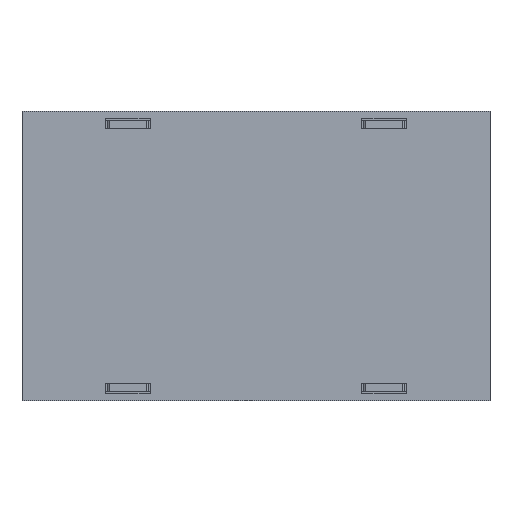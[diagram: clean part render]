
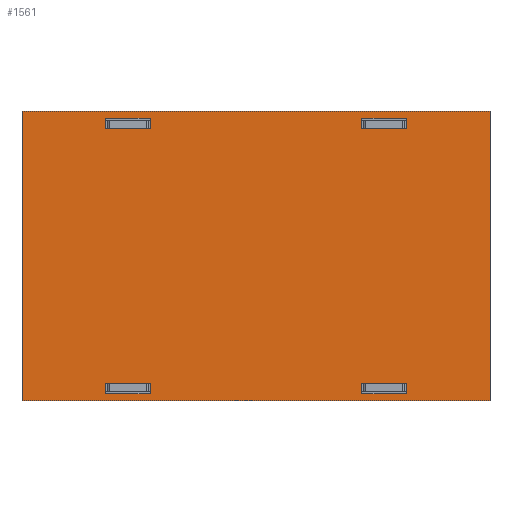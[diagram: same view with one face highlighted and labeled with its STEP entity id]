
A CAD part, front view. The second image highlights one B-rep face of the part: STEP entity #1561.
In plain terms, the highlighted planar face has unit normal (0, -1, 0).
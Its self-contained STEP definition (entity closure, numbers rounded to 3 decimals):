
#2=DIRECTION('',(-1.,0.,0.));
#3=VECTOR('',#2,5.);
#4=CARTESIAN_POINT('',(17.,0.,-15.6));
#5=LINE('',#4,#3);
#6=DIRECTION('',(0.,0.,-1.));
#7=VECTOR('',#6,1.2);
#8=CARTESIAN_POINT('',(17.,0.,-14.4));
#9=LINE('',#8,#7);
#10=DIRECTION('',(1.,0.,0.));
#11=VECTOR('',#10,5.);
#12=CARTESIAN_POINT('',(12.,0.,-14.4));
#13=LINE('',#12,#11);
#14=DIRECTION('',(0.,0.,1.));
#15=VECTOR('',#14,1.2);
#16=CARTESIAN_POINT('',(12.,0.,-15.6));
#17=LINE('',#16,#15);
#18=DIRECTION('',(-1.,0.,0.));
#19=VECTOR('',#18,5.);
#20=CARTESIAN_POINT('',(-12.,0.,-15.6));
#21=LINE('',#20,#19);
#22=DIRECTION('',(0.,0.,-1.));
#23=VECTOR('',#22,1.2);
#24=CARTESIAN_POINT('',(-12.,0.,-14.4));
#25=LINE('',#24,#23);
#26=DIRECTION('',(1.,0.,0.));
#27=VECTOR('',#26,5.);
#28=CARTESIAN_POINT('',(-17.,0.,-14.4));
#29=LINE('',#28,#27);
#30=DIRECTION('',(0.,0.,1.));
#31=VECTOR('',#30,1.2);
#32=CARTESIAN_POINT('',(-17.,0.,-15.6));
#33=LINE('',#32,#31);
#34=DIRECTION('',(0.,0.,-1.));
#35=VECTOR('',#34,1.2);
#36=CARTESIAN_POINT('',(17.,0.,15.6));
#37=LINE('',#36,#35);
#38=DIRECTION('',(1.,0.,0.));
#39=VECTOR('',#38,5.);
#40=CARTESIAN_POINT('',(12.,0.,15.6));
#41=LINE('',#40,#39);
#42=DIRECTION('',(0.,0.,1.));
#43=VECTOR('',#42,1.2);
#44=CARTESIAN_POINT('',(12.,0.,14.4));
#45=LINE('',#44,#43);
#46=DIRECTION('',(-1.,0.,0.));
#47=VECTOR('',#46,5.);
#48=CARTESIAN_POINT('',(17.,0.,14.4));
#49=LINE('',#48,#47);
#50=DIRECTION('',(0.,0.,-1.));
#51=VECTOR('',#50,1.2);
#52=CARTESIAN_POINT('',(-12.,0.,15.6));
#53=LINE('',#52,#51);
#54=DIRECTION('',(1.,0.,0.));
#55=VECTOR('',#54,5.);
#56=CARTESIAN_POINT('',(-17.,0.,15.6));
#57=LINE('',#56,#55);
#58=DIRECTION('',(0.,0.,1.));
#59=VECTOR('',#58,1.2);
#60=CARTESIAN_POINT('',(-17.,0.,14.4));
#61=LINE('',#60,#59);
#62=DIRECTION('',(-1.,0.,0.));
#63=VECTOR('',#62,5.);
#64=CARTESIAN_POINT('',(-12.,0.,14.4));
#65=LINE('',#64,#63);
#66=DIRECTION('',(1.,0.,0.));
#67=VECTOR('',#66,53.);
#68=CARTESIAN_POINT('',(-26.5,0.,16.4));
#69=LINE('',#68,#67);
#70=DIRECTION('',(0.,0.,-1.));
#71=VECTOR('',#70,32.8);
#72=CARTESIAN_POINT('',(-26.5,0.,16.4));
#73=LINE('',#72,#71);
#478=DIRECTION('',(1.,0.,0.));
#479=VECTOR('',#478,53.);
#480=CARTESIAN_POINT('',(-26.5,0.,-16.4));
#481=LINE('',#480,#479);
#1054=DIRECTION('',(0.,0.,-1.));
#1055=VECTOR('',#1054,32.8);
#1056=CARTESIAN_POINT('',(26.5,0.,16.4));
#1057=LINE('',#1056,#1055);
#1186=CARTESIAN_POINT('',(17.,0.,-15.6));
#1187=CARTESIAN_POINT('',(12.,0.,-15.6));
#1188=VERTEX_POINT('',#1186);
#1189=VERTEX_POINT('',#1187);
#1190=CARTESIAN_POINT('',(12.,0.,-14.4));
#1191=VERTEX_POINT('',#1190);
#1192=CARTESIAN_POINT('',(17.,0.,-14.4));
#1193=VERTEX_POINT('',#1192);
#1194=CARTESIAN_POINT('',(-12.,0.,-15.6));
#1195=CARTESIAN_POINT('',(-17.,0.,-15.6));
#1196=VERTEX_POINT('',#1194);
#1197=VERTEX_POINT('',#1195);
#1198=CARTESIAN_POINT('',(-17.,0.,-14.4));
#1199=VERTEX_POINT('',#1198);
#1200=CARTESIAN_POINT('',(-12.,0.,-14.4));
#1201=VERTEX_POINT('',#1200);
#1218=CARTESIAN_POINT('',(17.,0.,15.6));
#1219=CARTESIAN_POINT('',(17.,0.,14.4));
#1220=VERTEX_POINT('',#1218);
#1221=VERTEX_POINT('',#1219);
#1222=CARTESIAN_POINT('',(12.,0.,14.4));
#1223=VERTEX_POINT('',#1222);
#1224=CARTESIAN_POINT('',(12.,0.,15.6));
#1225=VERTEX_POINT('',#1224);
#1226=CARTESIAN_POINT('',(-12.,0.,15.6));
#1227=CARTESIAN_POINT('',(-12.,0.,14.4));
#1228=VERTEX_POINT('',#1226);
#1229=VERTEX_POINT('',#1227);
#1230=CARTESIAN_POINT('',(-17.,0.,14.4));
#1231=VERTEX_POINT('',#1230);
#1232=CARTESIAN_POINT('',(-17.,0.,15.6));
#1233=VERTEX_POINT('',#1232);
#1363=CARTESIAN_POINT('',(-26.5,0.,16.4));
#1365=VERTEX_POINT('',#1363);
#1382=CARTESIAN_POINT('',(26.5,0.,16.4));
#1384=VERTEX_POINT('',#1382);
#1403=CARTESIAN_POINT('',(-26.5,0.,-16.4));
#1405=VERTEX_POINT('',#1403);
#1422=CARTESIAN_POINT('',(26.5,0.,-16.4));
#1424=VERTEX_POINT('',#1422);
#1506=CARTESIAN_POINT('',(0.,0.,0.));
#1507=DIRECTION('',(0.,1.,0.));
#1508=DIRECTION('',(1.,0.,0.));
#1509=AXIS2_PLACEMENT_3D('',#1506,#1507,#1508);
#1510=PLANE('',#1509);
#1512=ORIENTED_EDGE('',*,*,#1511,.T.);
#1514=ORIENTED_EDGE('',*,*,#1513,.T.);
#1516=ORIENTED_EDGE('',*,*,#1515,.F.);
#1518=ORIENTED_EDGE('',*,*,#1517,.F.);
#1519=EDGE_LOOP('',(#1512,#1514,#1516,#1518));
#1520=FACE_OUTER_BOUND('',#1519,.F.);
#1522=ORIENTED_EDGE('',*,*,#1521,.F.);
#1524=ORIENTED_EDGE('',*,*,#1523,.F.);
#1526=ORIENTED_EDGE('',*,*,#1525,.F.);
#1528=ORIENTED_EDGE('',*,*,#1527,.F.);
#1529=EDGE_LOOP('',(#1522,#1524,#1526,#1528));
#1530=FACE_BOUND('',#1529,.F.);
#1532=ORIENTED_EDGE('',*,*,#1531,.F.);
#1534=ORIENTED_EDGE('',*,*,#1533,.F.);
#1536=ORIENTED_EDGE('',*,*,#1535,.F.);
#1538=ORIENTED_EDGE('',*,*,#1537,.F.);
#1539=EDGE_LOOP('',(#1532,#1534,#1536,#1538));
#1540=FACE_BOUND('',#1539,.F.);
#1542=ORIENTED_EDGE('',*,*,#1541,.F.);
#1544=ORIENTED_EDGE('',*,*,#1543,.F.);
#1546=ORIENTED_EDGE('',*,*,#1545,.F.);
#1548=ORIENTED_EDGE('',*,*,#1547,.F.);
#1549=EDGE_LOOP('',(#1542,#1544,#1546,#1548));
#1550=FACE_BOUND('',#1549,.F.);
#1552=ORIENTED_EDGE('',*,*,#1551,.F.);
#1554=ORIENTED_EDGE('',*,*,#1553,.F.);
#1556=ORIENTED_EDGE('',*,*,#1555,.F.);
#1558=ORIENTED_EDGE('',*,*,#1557,.F.);
#1559=EDGE_LOOP('',(#1552,#1554,#1556,#1558));
#1560=FACE_BOUND('',#1559,.F.);
#1561=ADVANCED_FACE('',(#1520,#1530,#1540,#1550,#1560),#1510,.F.);
#1511=EDGE_CURVE('',#1365,#1384,#69,.T.);
#1513=EDGE_CURVE('',#1384,#1424,#1057,.T.);
#1515=EDGE_CURVE('',#1405,#1424,#481,.T.);
#1517=EDGE_CURVE('',#1365,#1405,#73,.T.);
#1521=EDGE_CURVE('',#1196,#1197,#21,.T.);
#1523=EDGE_CURVE('',#1201,#1196,#25,.T.);
#1525=EDGE_CURVE('',#1199,#1201,#29,.T.);
#1527=EDGE_CURVE('',#1197,#1199,#33,.T.);
#1531=EDGE_CURVE('',#1220,#1221,#37,.T.);
#1533=EDGE_CURVE('',#1225,#1220,#41,.T.);
#1535=EDGE_CURVE('',#1223,#1225,#45,.T.);
#1537=EDGE_CURVE('',#1221,#1223,#49,.T.);
#1541=EDGE_CURVE('',#1228,#1229,#53,.T.);
#1543=EDGE_CURVE('',#1233,#1228,#57,.T.);
#1545=EDGE_CURVE('',#1231,#1233,#61,.T.);
#1547=EDGE_CURVE('',#1229,#1231,#65,.T.);
#1551=EDGE_CURVE('',#1188,#1189,#5,.T.);
#1553=EDGE_CURVE('',#1193,#1188,#9,.T.);
#1555=EDGE_CURVE('',#1191,#1193,#13,.T.);
#1557=EDGE_CURVE('',#1189,#1191,#17,.T.);
